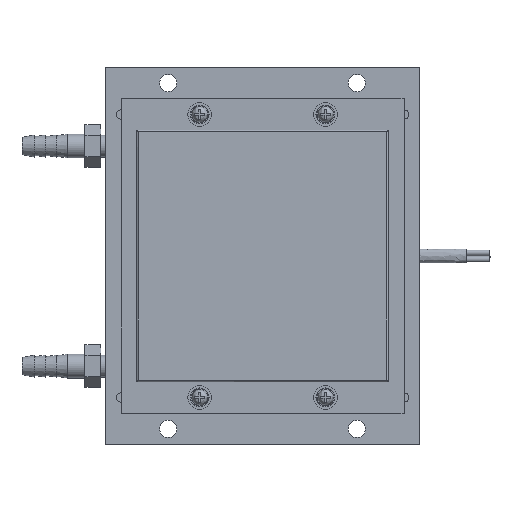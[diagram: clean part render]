
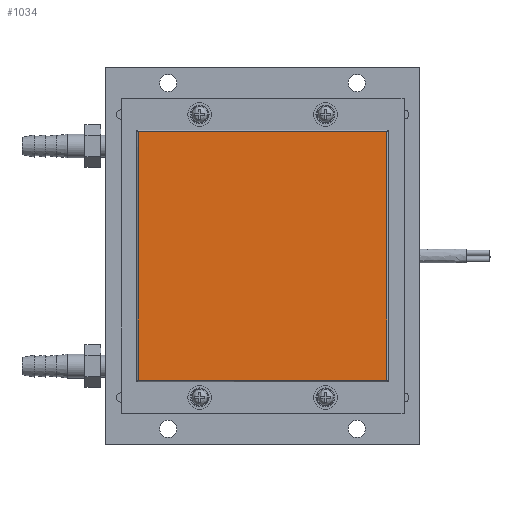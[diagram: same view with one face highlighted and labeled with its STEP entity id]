
A CAD part, top view. The second image highlights one B-rep face of the part: STEP entity #1034.
In plain terms, the highlighted planar face has unit normal (0, 0, 1).
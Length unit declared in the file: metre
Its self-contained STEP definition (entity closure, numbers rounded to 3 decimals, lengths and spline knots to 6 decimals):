
#1034=ADVANCED_FACE('0:818',(#2386),#2387,.T.);
#2386=FACE_OUTER_BOUND('',#4220,.T.);
#2387=PLANE('',#4221);
#4220=EDGE_LOOP('',(#6677,#6678,#6679,#6680));
#4221=AXIS2_PLACEMENT_3D('',#6681,#6682,#6683);
#6677=ORIENTED_EDGE('',*,*,#10684,.F.);
#6678=ORIENTED_EDGE('',*,*,#10698,.F.);
#6679=ORIENTED_EDGE('',*,*,#10700,.F.);
#6680=ORIENTED_EDGE('',*,*,#10701,.F.);
#6681=CARTESIAN_POINT('',(0.01,0.01,-0.12187));
#6682=DIRECTION('',(0.0,0.0,1.0));
#6683=DIRECTION('',(1.0,0.,0.0));
#10684=EDGE_CURVE('0:3502',#12438,#12440,#12441,.T.);
#10698=EDGE_CURVE('0:3508',#12458,#12438,#12460,.T.);
#10700=EDGE_CURVE('0:3514',#12462,#12458,#12463,.T.);
#10701=EDGE_CURVE('0:3520',#12440,#12462,#12464,.T.);
#12438=VERTEX_POINT('',#14938);
#12440=VERTEX_POINT('',#14940);
#12441=LINE('',#14941,#14942);
#12458=VERTEX_POINT('',#14966);
#12460=LINE('',#14968,#14969);
#12462=VERTEX_POINT('',#14971);
#12463=LINE('',#14972,#14973);
#12464=LINE('',#14974,#14975);
#14938=CARTESIAN_POINT('',(0.0895,0.0105,-0.12187));
#14940=CARTESIAN_POINT('',(0.0105,0.0105,-0.12187));
#14941=CARTESIAN_POINT('',(0.03,0.0105,-0.12187));
#14942=VECTOR('',#19036,1.0);
#14966=CARTESIAN_POINT('',(0.0895,0.0895,-0.12187));
#14968=CARTESIAN_POINT('',(0.0895,0.03,-0.12187));
#14969=VECTOR('',#19050,1.0);
#14971=CARTESIAN_POINT('',(0.0105,0.0895,-0.12187));
#14972=CARTESIAN_POINT('',(0.03,0.0895,-0.12187));
#14973=VECTOR('',#19051,1.0);
#14974=CARTESIAN_POINT('',(0.0105,0.03,-0.12187));
#14975=VECTOR('',#19052,1.0);
#19036=DIRECTION('',(-1.0,0.0,0.0));
#19050=DIRECTION('',(0.0,-1.0,0.0));
#19051=DIRECTION('',(1.0,0.0,0.0));
#19052=DIRECTION('',(0.0,1.0,0.0));
